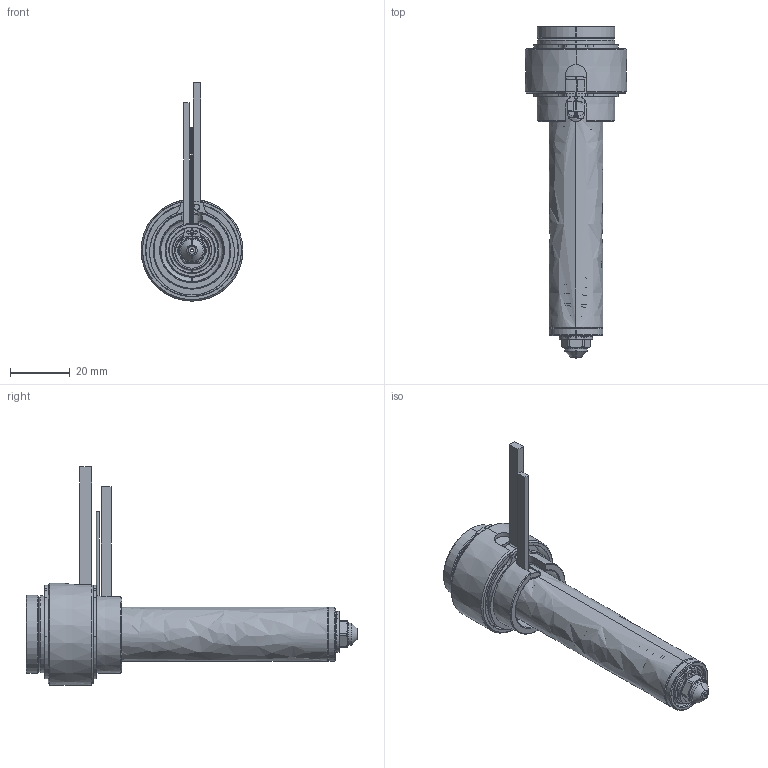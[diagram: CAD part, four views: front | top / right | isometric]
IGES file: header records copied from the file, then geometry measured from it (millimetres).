
Start section: SolidWorks IGES file using analytic representation for surfaces
Global section: file name: C:\Documents and Settings\ws-20\Desktop\TEM\UGER2503-S-A-0 [Øb-0.90 ØC-4.0].IGS; native system: SolidWorks 2012; preprocessor: SolidWorks 2012; author: ws-20; date: 120405.101936; units: millimetre
Bounding box: 34 x 110.9 x 72.9 mm (x, y, z)
Surface area: 28276 mm2 (no closed solid volume)
Topology: 0 solids, 0 shells, 206 faces, 2701 edges, 2701 vertices
Faces by surface type: revolution 133, bspline 73
